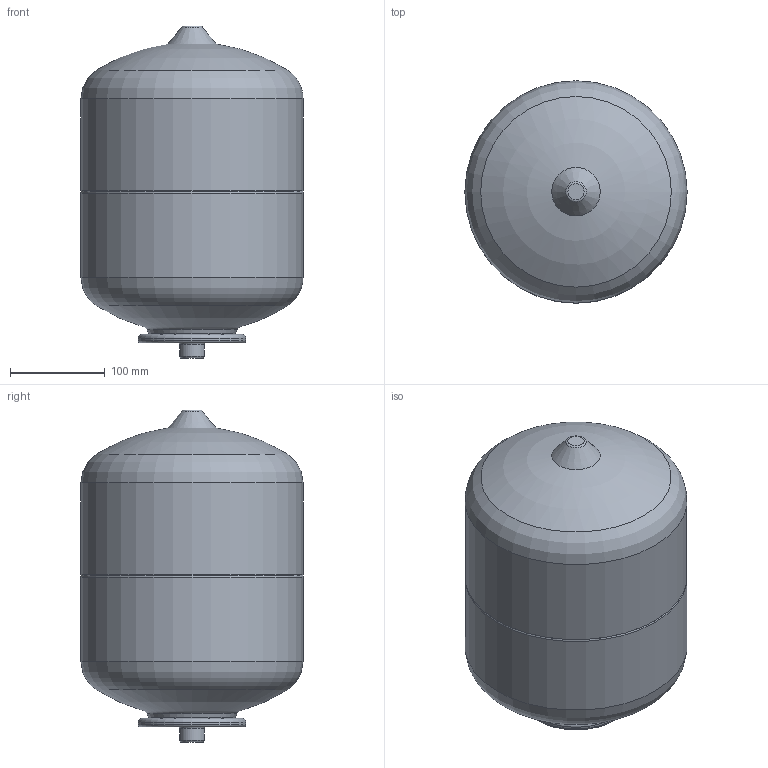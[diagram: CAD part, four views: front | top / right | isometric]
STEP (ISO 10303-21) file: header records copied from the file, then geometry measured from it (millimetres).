
FILE_DESCRIPTION(('STEP AP242'), '1');
FILE_NAME('VT.A.R.050012', '', ('UNSPECIFIED'), ('UNSPECIFIED'), 'C3D Converter', 'C3D Toolkit', '');
FILE_SCHEMA(('AP242_MANAGED_MODEL_BASED_3D_ENGINEERING_MIM_LF { 1 0 10303 442 1 1 4 }'));
Length unit declared in the file: millimetre
Bounding box: 235 x 235 x 351.15 mm (x, y, z)
Volume: 11667348 mm3; surface area: 276678.1 mm2
Topology: 1 solids, 1 shells, 40 faces, 110 edges, 78 vertices
Faces by surface type: torus 17, plane 8, cone 7, cylinder 6, sphere 2
Full cylindrical faces by diameter (mm): 20 x1, 26 x1, 78 x1, 114 x1, 235 x2
Entity records: 1224 total; most frequent: DIRECTION 238, CARTESIAN_POINT 197, ORIENTED_EDGE 156, AXIS2_PLACEMENT_3D 119, FACE_BOUND 78, EDGE_LOOP 78, EDGE_CURVE 78, VERTEX_POINT 78
